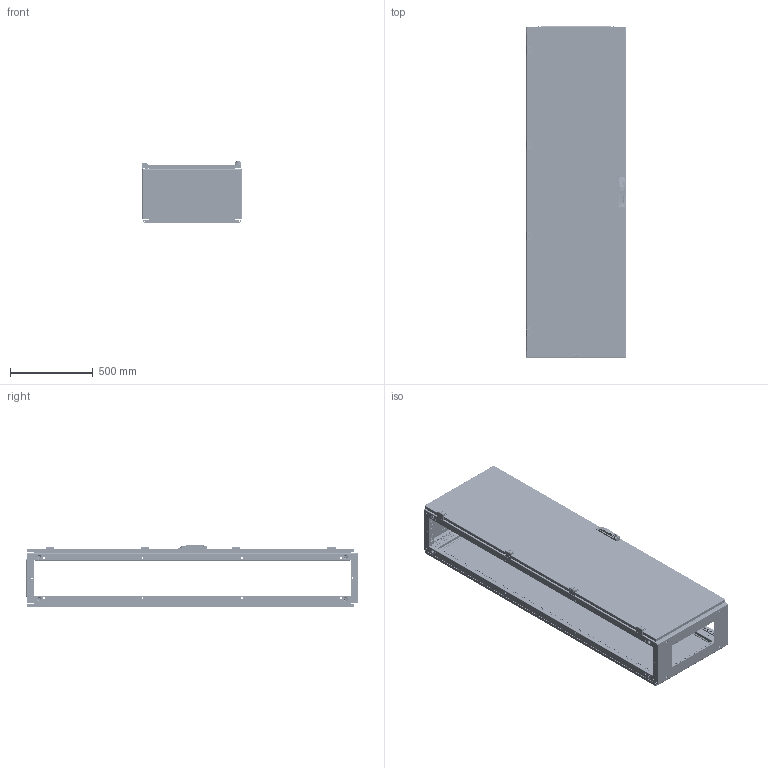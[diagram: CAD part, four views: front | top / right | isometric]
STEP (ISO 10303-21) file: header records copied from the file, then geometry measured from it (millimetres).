
FILE_DESCRIPTION (( 'STEP AP214' ), '1' );
FILE_NAME ('QA200603.step', '2011-08-09T13:55:16', ( 'Radek Veselý' ), ( 'Siemens and Partners' ), 'SwSTEP 2.0', 'SolidWorks 2006303', '' );
FILE_SCHEMA (( 'AUTOMOTIVE_DESIGN' ));
Length unit declared in the file: millimetre
Products named in the file (1): QA200603
Bounding box: 600 x 2004.5 x 376 mm (x, y, z)
Volume: 8698843.2 mm3; surface area: 10031686.9 mm2
Topology: 94 solids, 94 shells, 6471 faces, 17520 edges, 11242 vertices
Faces by surface type: plane 3464, cylinder 2455, cone 280, torus 164, sphere 60, bspline 48
Entity records: 281504 total; most frequent: CARTESIAN_POINT 37696, DIRECTION 35608, ORIENTED_EDGE 34672, EDGE_CURVE 17336, AXIS2_PLACEMENT_3D 12045, VECTOR 11518, LINE 11518, VERTEX_POINT 11226
